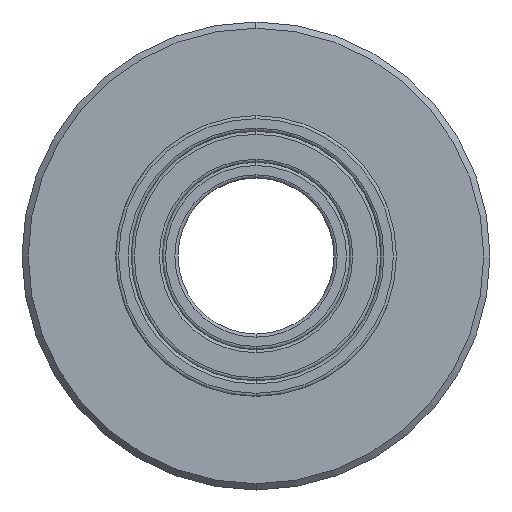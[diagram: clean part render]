
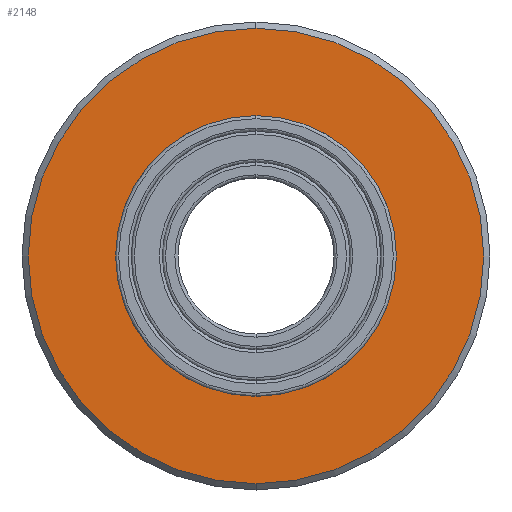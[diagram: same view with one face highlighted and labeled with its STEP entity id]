
A CAD part, front view. The second image highlights one B-rep face of the part: STEP entity #2148.
In plain terms, the highlighted planar face has unit normal (0, -1, 0).
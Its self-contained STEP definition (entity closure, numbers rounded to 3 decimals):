
#163 = DIRECTION ( 'NONE',  ( 0., 1., 0. ) ) ;
#233 = AXIS2_PLACEMENT_3D ( 'NONE', #1110, #317, #3559 ) ;
#252 = DIRECTION ( 'NONE',  ( 0., 0., -1. ) ) ;
#317 = DIRECTION ( 'NONE',  ( 0., 1., 0. ) ) ;
#381 = DIRECTION ( 'NONE',  ( 0., 1., 0. ) ) ;
#572 = EDGE_LOOP ( 'NONE', ( #3499, #2227 ) ) ;
#581 = CIRCLE ( 'NONE', #2021, 4.5 ) ;
#690 = EDGE_CURVE ( 'NONE', #1406, #1834, #581, .T. ) ;
#850 = CARTESIAN_POINT ( 'NONE',  ( 0., -5., 7.3 ) ) ;
#982 = CARTESIAN_POINT ( 'NONE',  ( 0., -5., 0. ) ) ;
#1025 = FACE_BOUND ( 'NONE', #572, .T. ) ;
#1040 = PLANE ( 'NONE',  #2943 ) ;
#1110 = CARTESIAN_POINT ( 'NONE',  ( 0., -5., 0. ) ) ;
#1247 = CARTESIAN_POINT ( 'NONE',  ( 0., -5., -7.3 ) ) ;
#1262 = CARTESIAN_POINT ( 'NONE',  ( 0., -5., 0. ) ) ;
#1276 = CIRCLE ( 'NONE', #1632, 4.5 ) ;
#1299 = CARTESIAN_POINT ( 'NONE',  ( 0., -5., 4.5 ) ) ;
#1367 = DIRECTION ( 'NONE',  ( 0., 0., 1. ) ) ;
#1406 = VERTEX_POINT ( 'NONE', #1299 ) ;
#1467 = DIRECTION ( 'NONE',  ( 0., 0., 1. ) ) ;
#1522 = EDGE_LOOP ( 'NONE', ( #2703, #2468 ) ) ;
#1632 = AXIS2_PLACEMENT_3D ( 'NONE', #1262, #1872, #1367 ) ;
#1688 = AXIS2_PLACEMENT_3D ( 'NONE', #982, #163, #2118 ) ;
#1834 = VERTEX_POINT ( 'NONE', #3288 ) ;
#1846 = CIRCLE ( 'NONE', #233, 7.3 ) ;
#1872 = DIRECTION ( 'NONE',  ( 0., 1., 0. ) ) ;
#2021 = AXIS2_PLACEMENT_3D ( 'NONE', #2861, #381, #1467 ) ;
#2113 = CARTESIAN_POINT ( 'NONE',  ( 0., -5., 0. ) ) ;
#2118 = DIRECTION ( 'NONE',  ( 0., 0., 1. ) ) ;
#2148 = ADVANCED_FACE ( 'NONE', ( #1025, #2696 ), #1040, .F. ) ;
#2227 = ORIENTED_EDGE ( 'NONE', *, *, #3510, .T. ) ;
#2228 = EDGE_CURVE ( 'NONE', #3185, #3334, #1846, .T. ) ;
#2468 = ORIENTED_EDGE ( 'NONE', *, *, #2228, .F. ) ;
#2696 = FACE_OUTER_BOUND ( 'NONE', #1522, .T. ) ;
#2703 = ORIENTED_EDGE ( 'NONE', *, *, #3298, .F. ) ;
#2861 = CARTESIAN_POINT ( 'NONE',  ( 0., -5., 0. ) ) ;
#2943 = AXIS2_PLACEMENT_3D ( 'NONE', #2113, #3486, #252 ) ;
#3185 = VERTEX_POINT ( 'NONE', #1247 ) ;
#3226 = CIRCLE ( 'NONE', #1688, 7.3 ) ;
#3288 = CARTESIAN_POINT ( 'NONE',  ( 0., -5., -4.5 ) ) ;
#3298 = EDGE_CURVE ( 'NONE', #3334, #3185, #3226, .T. ) ;
#3334 = VERTEX_POINT ( 'NONE', #850 ) ;
#3486 = DIRECTION ( 'NONE',  ( 0., 1., 0. ) ) ;
#3499 = ORIENTED_EDGE ( 'NONE', *, *, #690, .T. ) ;
#3510 = EDGE_CURVE ( 'NONE', #1834, #1406, #1276, .T. ) ;
#3559 = DIRECTION ( 'NONE',  ( 0., 0., 1. ) ) ;
